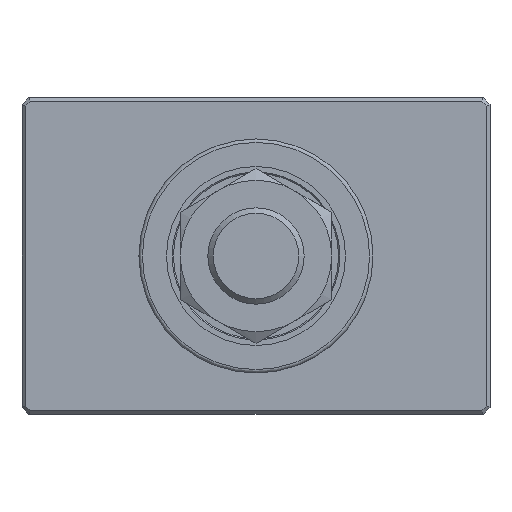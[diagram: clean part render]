
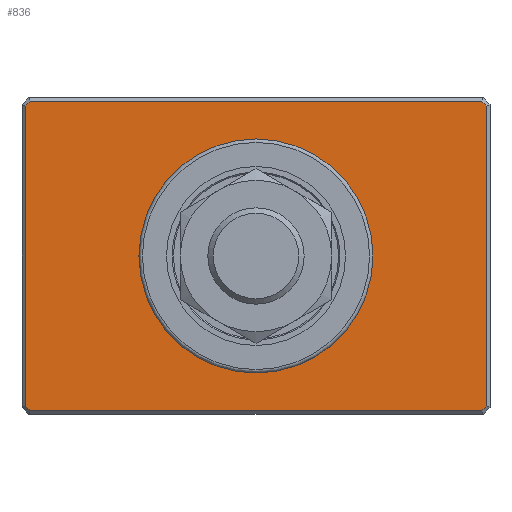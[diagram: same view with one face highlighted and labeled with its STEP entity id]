
A CAD part, front view. The second image highlights one B-rep face of the part: STEP entity #836.
In plain terms, the highlighted planar face has unit normal (0, -1, 0).
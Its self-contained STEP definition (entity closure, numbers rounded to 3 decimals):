
#524=CARTESIAN_POINT('',(32.793,-21.,22.5));
#525=VERTEX_POINT('',#524);
#526=CARTESIAN_POINT('',(33.5,-21.,21.793));
#527=VERTEX_POINT('',#526);
#528=CARTESIAN_POINT('',(32.793,-21.,22.5));
#529=DIRECTION('',(0.707,0.0,-0.707));
#530=VECTOR('',#529,1.);
#531=LINE('',#528,#530);
#532=EDGE_CURVE('',#525,#527,#531,.T.);
#555=CARTESIAN_POINT('',(-32.793,-21.,-22.5));
#556=VERTEX_POINT('',#555);
#557=CARTESIAN_POINT('',(-33.5,-21.,-21.793));
#558=VERTEX_POINT('',#557);
#559=CARTESIAN_POINT('',(-32.793,-21.,-22.5));
#560=DIRECTION('',(-0.707,0.0,0.707));
#561=VECTOR('',#560,1.);
#562=LINE('',#559,#561);
#563=EDGE_CURVE('',#556,#558,#562,.T.);
#595=CARTESIAN_POINT('',(-32.793,-21.,22.5));
#596=VERTEX_POINT('',#595);
#597=CARTESIAN_POINT('',(-32.793,-21.,22.5));
#598=DIRECTION('',(1.0,0.0,0.0));
#599=VECTOR('',#598,65.586);
#600=LINE('',#597,#599);
#601=EDGE_CURVE('',#596,#525,#600,.T.);
#626=CARTESIAN_POINT('',(-33.5,-21.,21.793));
#627=VERTEX_POINT('',#626);
#628=CARTESIAN_POINT('',(-33.5,-21.,-21.793));
#629=DIRECTION('',(0.0,0.0,1.0));
#630=VECTOR('',#629,43.586);
#631=LINE('',#628,#630);
#632=EDGE_CURVE('',#558,#627,#631,.T.);
#648=CARTESIAN_POINT('',(-33.5,-21.,21.793));
#649=DIRECTION('',(0.707,0.0,0.707));
#650=VECTOR('',#649,1.);
#651=LINE('',#648,#650);
#652=EDGE_CURVE('',#627,#596,#651,.T.);
#665=CARTESIAN_POINT('',(32.793,-21.,-22.5));
#666=VERTEX_POINT('',#665);
#667=CARTESIAN_POINT('',(32.793,-21.,-22.5));
#668=DIRECTION('',(-1.0,0.0,0.0));
#669=VECTOR('',#668,65.586);
#670=LINE('',#667,#669);
#671=EDGE_CURVE('',#666,#556,#670,.T.);
#698=CARTESIAN_POINT('',(33.5,-21.,-21.793));
#699=VERTEX_POINT('',#698);
#700=CARTESIAN_POINT('',(33.5,-21.,21.793));
#701=DIRECTION('',(0.0,0.0,-1.0));
#702=VECTOR('',#701,43.586);
#703=LINE('',#700,#702);
#704=EDGE_CURVE('',#527,#699,#703,.T.);
#720=CARTESIAN_POINT('',(33.5,-21.,-21.793));
#721=DIRECTION('',(-0.707,0.0,-0.707));
#722=VECTOR('',#721,1.);
#723=LINE('',#720,#722);
#724=EDGE_CURVE('',#699,#666,#723,.T.);
#810=CARTESIAN_POINT('',(0.0,-21.,-23.));
#811=DIRECTION('',(0.0,-1.0,0.0));
#812=DIRECTION('',(0.0,0.0,-1.0));
#813=AXIS2_PLACEMENT_3D('',#810,#811,#812);
#814=PLANE('',#813);
#815=ORIENTED_EDGE('',*,*,#563,.F.);
#816=ORIENTED_EDGE('',*,*,#671,.F.);
#817=ORIENTED_EDGE('',*,*,#724,.F.);
#818=ORIENTED_EDGE('',*,*,#704,.F.);
#819=ORIENTED_EDGE('',*,*,#532,.F.);
#820=ORIENTED_EDGE('',*,*,#601,.F.);
#821=ORIENTED_EDGE('',*,*,#652,.F.);
#822=ORIENTED_EDGE('',*,*,#632,.F.);
#823=EDGE_LOOP('',(#815,#816,#817,#818,#819,#820,#821,#822));
#824=FACE_OUTER_BOUND('',#823,.T.);
#825=CARTESIAN_POINT('',(0.0,-21.,17.0));
#826=VERTEX_POINT('',#825);
#827=CARTESIAN_POINT('',(0.0,-21.,0.0));
#828=DIRECTION('',(0.0,1.0,0.0));
#829=DIRECTION('',(0.0,0.0,1.0));
#830=AXIS2_PLACEMENT_3D('',#827,#828,#829);
#831=CIRCLE('',#830,17.0);
#832=EDGE_CURVE('',#826,#826,#831,.T.);
#833=ORIENTED_EDGE('',*,*,#832,.T.);
#834=EDGE_LOOP('',(#833));
#835=FACE_BOUND('',#834,.T.);
#836=ADVANCED_FACE('',(#824,#835),#814,.T.);
